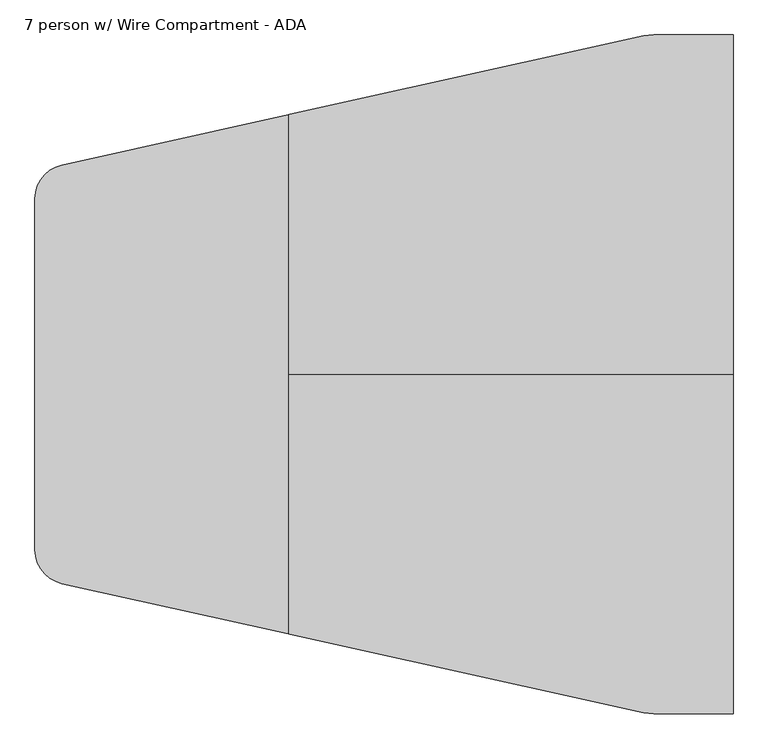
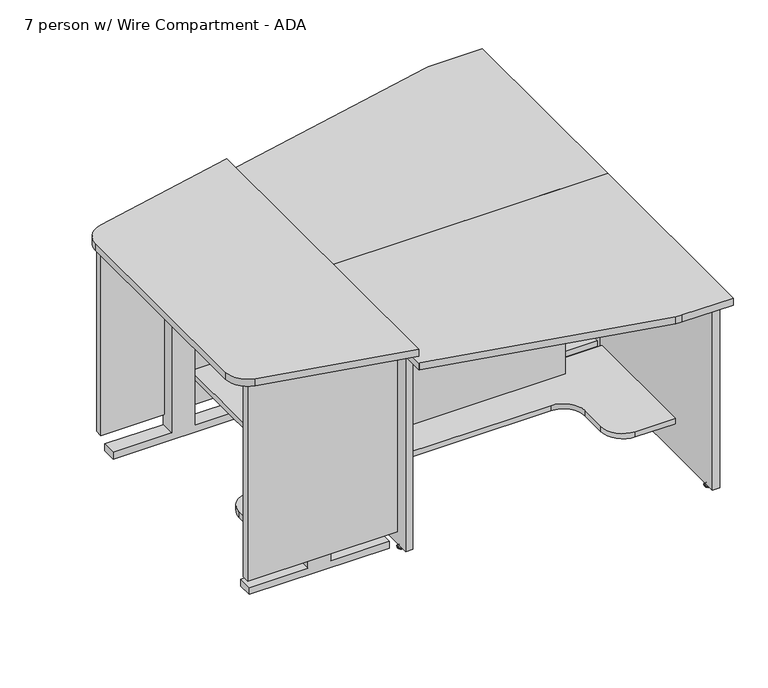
"""IFC4 building model written with IfcOpenShell, lengths in millimetres: furniture geometry, Nova Solutions - Collaboration Table - Boat_6-8 person : 7 person w/ Wire Compartment - ADA."""

from ifc_helpers import new_model, si_unit, point, frame, frame_2d, origin, place, context, project, spatial, polyline, circle_curve, ellipse_curve, trimmed, segment, composite_curve, outline, extrude, source, transform, mapped, element, save
from ifc_brep_helpers import plane_surface, cylinder_surface, revolved_surface, advanced_brep


def furniture_7_person_w_wire_compartment_ada_2b6aad6f(model_context):
    return source(origin(), model_context, "Body", "SolidModel", [
        extrude(outline(polyline([(145.5, -1880.6768948), (145.5, -1112.3768948), (507.4, -1112.3768948), (507.4, -941.3768948), (736.3, -941.3768948), (736.3, -1880.6768948), (145.5, -1880.6768948)])), frame((0.0, 69.4, 0.0), z_axis=(0.0, 1.0, 0.0), x_axis=(0.0, 0.0, 1.0)), (0.0, 0.0, 1.0), 19.2),
        extrude(outline(composite_curve([segment(polyline([(-1880.6768948, 14.1), (-1880.6768948, 210.4), (-1233.5768948, 210.4)]), True, "CONTINUOUS"), segment(trimmed(circle_curve(frame_2d((-1233.5768948, 286.6)), 76.2), [point((-1233.5768948, 210.4))], [point((-1157.3768948, 286.6))], True, "CARTESIAN"), True, "CONTINUOUS"), segment(polyline([(-1157.3768948, 286.6), (-1157.3768948, 381.0625)]), True, "CONTINUOUS"), segment(trimmed(circle_curve(frame_2d((-1081.1768948, 381.0625)), 76.2), [point((-1157.3768948, 381.0625))], [point((-1081.1768948, 457.2625))], False, "CARTESIAN"), True, "CONTINUOUS"), segment(polyline([(-1081.1768948, 457.2625), (-941.3768948, 457.2625), (-941.3768948, 14.1), (-1880.6768948, 14.1)]), True, "CONTINUOUS")], self_intersect=False)), frame((0.0, 0.0, 126.3), z_axis=(0.0, 0.0, 1.0), x_axis=(1.0, 0.0, 0.0)), (0.0, 0.0, 1.0), 19.2),
        advanced_brep(
        [(-1900.2045454, 448.9859375, 11.1125), (-1886.8492442, 448.9859375, 11.1125), (-1893.5268948, 448.9859375, 11.1125), (-1900.2045454, 448.9859375, 9.525), (-1886.8492442, 448.9859375, 9.525), (-1905.4124083, 448.9859375, 4.7748687), (-1881.6413813, 448.9859375, 4.7748687), (-1906.2735454, 448.9859375, 3.989419), (-1880.7802442, 448.9859375, 3.989419), (-1906.2735454, 448.9859375, 3.175), (-1880.7802442, 448.9859375, 3.175), (-1905.4228067, 448.9859375, 0.0), (-1881.6309828, 448.9859375, 0.0), (-1893.5268948, 448.9859375, 0.0)],
        [
            (0, 1, circle_curve(frame((-1893.5268948, 448.9859375, 11.1125), z_axis=(0.0, 0.0, 1.0), x_axis=(1.0, 0.0, 0.0)), 6.6776506)),
            (1, 2),
            (2, 0),
            (1, 0, circle_curve(frame((-1893.5268948, 448.9859375, 11.1125), z_axis=(0.0, 0.0, 1.0), x_axis=(1.0, 0.0, 0.0)), 6.6776506)),
            (3, 4, circle_curve(frame((-1893.5268948, 448.9859375, 9.525), z_axis=(0.0, 0.0, 1.0), x_axis=(1.0, 0.0, 0.0)), 6.6776506)),
            (4, 1),
            (0, 3),
            (4, 3, circle_curve(frame((-1893.5268948, 448.9859375, 9.525), z_axis=(0.0, 0.0, 1.0), x_axis=(1.0, 0.0, 0.0)), 6.6776506)),
            (5, 6, circle_curve(frame((-1893.5268948, 448.9859375, 4.7748687), z_axis=(0.0, 0.0, 1.0), x_axis=(1.0, 0.0, 0.0)), 11.8855135)),
            (6, 4, circle_curve(frame((-1880.5948321, 448.9859375, 11.1521822), z_axis=(0.0, 1.0, 0.0), x_axis=(-1.0, 0.0, 0.0)), 6.462615)),
            (3, 5, circle_curve(frame((-1906.4589575, 448.9859375, 11.1521822), z_axis=(0.0, 1.0, 0.0), x_axis=(1.0, 0.0, 0.0)), 6.462615)),
            (6, 5, circle_curve(frame((-1893.5268948, 448.9859375, 4.7748687), z_axis=(0.0, 0.0, 1.0), x_axis=(1.0, 0.0, 0.0)), 11.8855135)),
            (7, 8, circle_curve(frame((-1893.5268948, 448.9859375, 3.989419), z_axis=(0.0, 0.0, 1.0), x_axis=(1.0, 0.0, 0.0)), 12.7466506)),
            (8, 6, circle_curve(frame((-1881.8144316, 448.9859375, 3.7203591), z_axis=(0.0, -1.0, 0.0), x_axis=(-1.0, 0.0, 0.0)), 1.0686145)),
            (5, 7, circle_curve(frame((-1905.239358, 448.9859375, 3.7203591), z_axis=(0.0, -1.0, 0.0), x_axis=(1.0, 0.0, 0.0)), 1.0686145)),
            (8, 7, circle_curve(frame((-1893.5268948, 448.9859375, 3.989419), z_axis=(0.0, 0.0, 1.0), x_axis=(1.0, 0.0, 0.0)), 12.7466506)),
            (9, 10, circle_curve(frame((-1893.5268948, 448.9859375, 3.175), z_axis=(0.0, 0.0, 1.0), x_axis=(1.0, 0.0, 0.0)), 12.7466506)),
            (10, 8),
            (7, 9),
            (10, 9, circle_curve(frame((-1893.5268948, 448.9859375, 3.175), z_axis=(0.0, 0.0, 1.0), x_axis=(1.0, 0.0, 0.0)), 12.7466506)),
            (11, 12, circle_curve(frame((-1893.5268948, 448.9859375, 0.0), z_axis=(0.0, 0.0, 1.0), x_axis=(1.0, 0.0, 0.0)), 11.8959119)),
            (12, 10),
            (9, 11),
            (12, 11, circle_curve(frame((-1893.5268948, 448.9859375, 0.0), z_axis=(0.0, 0.0, 1.0), x_axis=(1.0, 0.0, 0.0)), 11.8959119)),
            (13, 12),
            (11, 13),
        ],
        [
            plane_surface(frame((-1893.5268948, 448.9859375, 11.1125), z_axis=(0.0, 0.0, 1.0), x_axis=(1.0, 0.0, 0.0))),
            cylinder_surface(frame((-1893.5268948, 448.9859375, 43.2095994), z_axis=(0.0, 0.0, -1.0), x_axis=(1.0, 0.0, 0.0)), 6.6776506),
            revolved_surface(trimmed(ellipse_curve(frame((-1880.5948321, 448.9859375, 11.1521822), z_axis=(0.0, -1.0, 0.0), x_axis=(-1.0, 0.0, 0.0)), 6.462615, 6.462615), [point((-1886.8492442, 448.9859375, 9.525))], [point((-1881.6413813, 448.9859375, 4.7748687))], True, "CARTESIAN"), (-1893.5268948, 448.9859375, 43.2095994), (0.0, 0.0, -1.0)),
            revolved_surface(trimmed(ellipse_curve(frame((-1881.8144316, 448.9859375, 3.7203591), z_axis=(0.0, 1.0, 0.0), x_axis=(-1.0, 0.0, 0.0)), 1.0686145, 1.0686145), [point((-1881.6413813, 448.9859375, 4.7748687))], [point((-1880.7802442, 448.9859375, 3.989419))], True, "CARTESIAN"), (-1893.5268948, 448.9859375, 43.2095994), (0.0, 0.0, -1.0)),
            cylinder_surface(frame((-1893.5268948, 448.9859375, 43.2095994), z_axis=(0.0, 0.0, -1.0), x_axis=(1.0, 0.0, 0.0)), 12.7466506),
            revolved_surface(polyline([(-1880.7802442, 448.9859375, 3.175), (-1881.6309828, 448.9859375, 0.0)]), (-1893.5268948, 448.9859375, 43.2095994), (0.0, 0.0, -1.0)),
            plane_surface(frame((-1893.5268948, 448.9859375, 0.0), z_axis=(0.0, 0.0, -1.0), x_axis=(1.0, 0.0, 0.0))),
        ],
        [
            (0, [[1, 2, 3]]),
            (0, [[4, -3, -2]]),
            (1, [[5, 6, -1, 7]]),
            (1, [[8, -7, -4, -6]]),
            (2, [[9, 10, -5, 11]]),
            (2, [[12, -11, -8, -10]]),
            (3, [[13, 14, -9, 15]]),
            (3, [[16, -15, -12, -14]]),
            (4, [[17, 18, -13, 19]]),
            (4, [[20, -19, -16, -18]]),
            (5, [[21, 22, -17, 23]]),
            (5, [[24, -23, -20, -22]]),
            (6, [[25, -21, 26]]),
            (6, [[-26, -24, -25]]),
        ],
    ),
        advanced_brep(
        [(-1900.2045454, 50.4140625, 11.1125), (-1886.8492442, 50.4140625, 11.1125), (-1893.5268948, 50.4140625, 11.1125), (-1900.2045454, 50.4140625, 9.525), (-1886.8492442, 50.4140625, 9.525), (-1905.4124083, 50.4140625, 4.7748687), (-1881.6413813, 50.4140625, 4.7748687), (-1906.2735454, 50.4140625, 3.989419), (-1880.7802442, 50.4140625, 3.989419), (-1906.2735454, 50.4140625, 3.175), (-1880.7802442, 50.4140625, 3.175), (-1905.4228067, 50.4140625, 0.0), (-1881.6309828, 50.4140625, 0.0), (-1893.5268948, 50.4140625, 0.0)],
        [
            (0, 1, circle_curve(frame((-1893.5268948, 50.4140625, 11.1125), z_axis=(0.0, 0.0, 1.0), x_axis=(1.0, 0.0, 0.0)), 6.6776506)),
            (1, 2),
            (2, 0),
            (1, 0, circle_curve(frame((-1893.5268948, 50.4140625, 11.1125), z_axis=(0.0, 0.0, 1.0), x_axis=(1.0, 0.0, 0.0)), 6.6776506)),
            (3, 4, circle_curve(frame((-1893.5268948, 50.4140625, 9.525), z_axis=(0.0, 0.0, 1.0), x_axis=(1.0, 0.0, 0.0)), 6.6776506)),
            (4, 1),
            (0, 3),
            (4, 3, circle_curve(frame((-1893.5268948, 50.4140625, 9.525), z_axis=(0.0, 0.0, 1.0), x_axis=(1.0, 0.0, 0.0)), 6.6776506)),
            (5, 6, circle_curve(frame((-1893.5268948, 50.4140625, 4.7748687), z_axis=(0.0, 0.0, 1.0), x_axis=(1.0, 0.0, 0.0)), 11.8855135)),
            (6, 4, circle_curve(frame((-1880.5948321, 50.4140625, 11.1521822), z_axis=(0.0, 1.0, 0.0), x_axis=(-1.0, 0.0, 0.0)), 6.462615)),
            (3, 5, circle_curve(frame((-1906.4589575, 50.4140625, 11.1521822), z_axis=(0.0, 1.0, 0.0), x_axis=(1.0, 0.0, 0.0)), 6.462615)),
            (6, 5, circle_curve(frame((-1893.5268948, 50.4140625, 4.7748687), z_axis=(0.0, 0.0, 1.0), x_axis=(1.0, 0.0, 0.0)), 11.8855135)),
            (7, 8, circle_curve(frame((-1893.5268948, 50.4140625, 3.989419), z_axis=(0.0, 0.0, 1.0), x_axis=(1.0, 0.0, 0.0)), 12.7466506)),
            (8, 6, circle_curve(frame((-1881.8144316, 50.4140625, 3.7203591), z_axis=(0.0, -1.0, 0.0), x_axis=(-1.0, 0.0, 0.0)), 1.0686145)),
            (5, 7, circle_curve(frame((-1905.239358, 50.4140625, 3.7203591), z_axis=(0.0, -1.0, 0.0), x_axis=(1.0, 0.0, 0.0)), 1.0686145)),
            (8, 7, circle_curve(frame((-1893.5268948, 50.4140625, 3.989419), z_axis=(0.0, 0.0, 1.0), x_axis=(1.0, 0.0, 0.0)), 12.7466506)),
            (9, 10, circle_curve(frame((-1893.5268948, 50.4140625, 3.175), z_axis=(0.0, 0.0, 1.0), x_axis=(1.0, 0.0, 0.0)), 12.7466506)),
            (10, 8),
            (7, 9),
            (10, 9, circle_curve(frame((-1893.5268948, 50.4140625, 3.175), z_axis=(0.0, 0.0, 1.0), x_axis=(1.0, 0.0, 0.0)), 12.7466506)),
            (11, 12, circle_curve(frame((-1893.5268948, 50.4140625, 0.0), z_axis=(0.0, 0.0, 1.0), x_axis=(1.0, 0.0, 0.0)), 11.8959119)),
            (12, 10),
            (9, 11),
            (12, 11, circle_curve(frame((-1893.5268948, 50.4140625, 0.0), z_axis=(0.0, 0.0, 1.0), x_axis=(1.0, 0.0, 0.0)), 11.8959119)),
            (13, 12),
            (11, 13),
        ],
        [
            plane_surface(frame((-1893.5268948, 50.4140625, 11.1125), z_axis=(0.0, 0.0, 1.0), x_axis=(1.0, 0.0, 0.0))),
            cylinder_surface(frame((-1893.5268948, 50.4140625, 43.2095994), z_axis=(0.0, 0.0, -1.0), x_axis=(1.0, 0.0, 0.0)), 6.6776506),
            revolved_surface(trimmed(ellipse_curve(frame((-1880.5948321, 50.4140625, 11.1521822), z_axis=(0.0, -1.0, 0.0), x_axis=(-1.0, 0.0, 0.0)), 6.462615, 6.462615), [point((-1886.8492442, 50.4140625, 9.525))], [point((-1881.6413813, 50.4140625, 4.7748687))], True, "CARTESIAN"), (-1893.5268948, 50.4140625, 43.2095994), (0.0, 0.0, -1.0)),
            revolved_surface(trimmed(ellipse_curve(frame((-1881.8144316, 50.4140625, 3.7203591), z_axis=(0.0, 1.0, 0.0), x_axis=(-1.0, 0.0, 0.0)), 1.0686145, 1.0686145), [point((-1881.6413813, 50.4140625, 4.7748687))], [point((-1880.7802442, 50.4140625, 3.989419))], True, "CARTESIAN"), (-1893.5268948, 50.4140625, 43.2095994), (0.0, 0.0, -1.0)),
            cylinder_surface(frame((-1893.5268948, 50.4140625, 43.2095994), z_axis=(0.0, 0.0, -1.0), x_axis=(1.0, 0.0, 0.0)), 12.7466506),
            revolved_surface(polyline([(-1880.7802442, 50.4140625, 3.175), (-1881.6309828, 50.4140625, 0.0)]), (-1893.5268948, 50.4140625, 43.2095994), (0.0, 0.0, -1.0)),
            plane_surface(frame((-1893.5268948, 50.4140625, 0.0), z_axis=(0.0, 0.0, -1.0), x_axis=(1.0, 0.0, 0.0))),
        ],
        [
            (0, [[1, 2, 3]]),
            (0, [[4, -3, -2]]),
            (1, [[5, 6, -1, 7]]),
            (1, [[8, -7, -4, -6]]),
            (2, [[9, 10, -5, 11]]),
            (2, [[12, -11, -8, -10]]),
            (3, [[13, 14, -9, 15]]),
            (3, [[16, -15, -12, -14]]),
            (4, [[17, 18, -13, 19]]),
            (4, [[20, -19, -16, -18]]),
            (5, [[21, 22, -17, 23]]),
            (5, [[24, -23, -20, -22]]),
            (6, [[25, -21, 26]]),
            (6, [[-26, -24, -25]]),
        ],
    ),
        extrude(outline(polyline([(-1906.3768948, 1.4), (-1906.3768948, 498.0), (-1880.6768948, 498.0), (-1880.6768948, 1.4), (-1906.3768948, 1.4)])), frame((0.0, 0.0, 15.6), z_axis=(0.0, 0.0, 1.0), x_axis=(1.0, 0.0, 0.0)), (0.0, 0.0, 1.0), 720.7),
        advanced_brep(
        [(-921.8492442, 631.3859375, 11.1125), (-928.5268948, 631.3859375, 11.1125), (-935.2045454, 631.3859375, 11.1125), (-921.8492442, 631.3859375, 9.525), (-935.2045454, 631.3859375, 9.525), (-916.6413813, 631.3859375, 4.7748687), (-940.4124083, 631.3859375, 4.7748687), (-915.7802442, 631.3859375, 3.989419), (-941.2735454, 631.3859375, 3.989419), (-915.7802442, 631.3859375, 3.175), (-941.2735454, 631.3859375, 3.175), (-916.6309828, 631.3859375, 0.0), (-940.4228067, 631.3859375, 0.0), (-928.5268948, 631.3859375, 0.0)],
        [
            (0, 1),
            (1, 2),
            (2, 0, circle_curve(frame((-928.5268948, 631.3859375, 11.1125), z_axis=(0.0, 0.0, 1.0), x_axis=(-1.0, 0.0, 0.0)), 6.6776506)),
            (0, 2, circle_curve(frame((-928.5268948, 631.3859375, 11.1125), z_axis=(0.0, 0.0, 1.0), x_axis=(-1.0, 0.0, 0.0)), 6.6776506)),
            (3, 0),
            (2, 4),
            (4, 3, circle_curve(frame((-928.5268948, 631.3859375, 9.525), z_axis=(0.0, 0.0, 1.0), x_axis=(-1.0, 0.0, 0.0)), 6.6776506)),
            (3, 4, circle_curve(frame((-928.5268948, 631.3859375, 9.525), z_axis=(0.0, 0.0, 1.0), x_axis=(-1.0, 0.0, 0.0)), 6.6776506)),
            (5, 3, circle_curve(frame((-915.5948321, 631.3859375, 11.1521822), z_axis=(0.0, 1.0, 0.0), x_axis=(-1.0, 0.0, 0.0)), 6.462615)),
            (4, 6, circle_curve(frame((-941.4589575, 631.3859375, 11.1521822), z_axis=(0.0, 1.0, 0.0), x_axis=(1.0, 0.0, 0.0)), 6.462615)),
            (6, 5, circle_curve(frame((-928.5268948, 631.3859375, 4.7748687), z_axis=(0.0, 0.0, 1.0), x_axis=(-1.0, 0.0, 0.0)), 11.8855135)),
            (5, 6, circle_curve(frame((-928.5268948, 631.3859375, 4.7748687), z_axis=(0.0, 0.0, 1.0), x_axis=(-1.0, 0.0, 0.0)), 11.8855135)),
            (7, 5, circle_curve(frame((-916.8144316, 631.3859375, 3.7203591), z_axis=(0.0, -1.0, 0.0), x_axis=(-1.0, 0.0, 0.0)), 1.0686145)),
            (6, 8, circle_curve(frame((-940.239358, 631.3859375, 3.7203591), z_axis=(0.0, -1.0, 0.0), x_axis=(1.0, 0.0, 0.0)), 1.0686145)),
            (8, 7, circle_curve(frame((-928.5268948, 631.3859375, 3.989419), z_axis=(0.0, 0.0, 1.0), x_axis=(-1.0, 0.0, 0.0)), 12.7466506)),
            (7, 8, circle_curve(frame((-928.5268948, 631.3859375, 3.989419), z_axis=(0.0, 0.0, 1.0), x_axis=(-1.0, 0.0, 0.0)), 12.7466506)),
            (9, 7),
            (8, 10),
            (10, 9, circle_curve(frame((-928.5268948, 631.3859375, 3.175), z_axis=(0.0, 0.0, 1.0), x_axis=(-1.0, 0.0, 0.0)), 12.7466506)),
            (9, 10, circle_curve(frame((-928.5268948, 631.3859375, 3.175), z_axis=(0.0, 0.0, 1.0), x_axis=(-1.0, 0.0, 0.0)), 12.7466506)),
            (11, 9),
            (10, 12),
            (12, 11, circle_curve(frame((-928.5268948, 631.3859375, 0.0), z_axis=(0.0, 0.0, 1.0), x_axis=(-1.0, 0.0, 0.0)), 11.8959119)),
            (11, 12, circle_curve(frame((-928.5268948, 631.3859375, 0.0), z_axis=(0.0, 0.0, 1.0), x_axis=(-1.0, 0.0, 0.0)), 11.8959119)),
            (13, 11),
            (12, 13),
        ],
        [
            plane_surface(frame((-928.5268948, 631.3859375, 11.1125), z_axis=(0.0, 0.0, 1.0), x_axis=(-1.0, 0.0, 0.0))),
            cylinder_surface(frame((-928.5268948, 631.3859375, 43.2095994), z_axis=(0.0, 0.0, -1.0), x_axis=(-1.0, 0.0, 0.0)), 6.6776506),
            revolved_surface(trimmed(ellipse_curve(frame((-941.4589575, 631.3859375, 11.1521822), z_axis=(0.0, 1.0, 0.0), x_axis=(1.0, 0.0, 0.0)), 6.462615, 6.462615), [point((-935.2045454, 631.3859375, 9.525))], [point((-940.4124083, 631.3859375, 4.7748687))], True, "CARTESIAN"), (-928.5268948, 631.3859375, 43.2095994), (0.0, 0.0, -1.0)),
            revolved_surface(trimmed(ellipse_curve(frame((-940.239358, 631.3859375, 3.7203591), z_axis=(0.0, -1.0, 0.0), x_axis=(1.0, 0.0, 0.0)), 1.0686145, 1.0686145), [point((-940.4124083, 631.3859375, 4.7748687))], [point((-941.2735454, 631.3859375, 3.989419))], True, "CARTESIAN"), (-928.5268948, 631.3859375, 43.2095994), (0.0, 0.0, -1.0)),
            cylinder_surface(frame((-928.5268948, 631.3859375, 43.2095994), z_axis=(0.0, 0.0, -1.0), x_axis=(-1.0, 0.0, 0.0)), 12.7466506),
            revolved_surface(polyline([(-941.2735454, 631.3859375, 3.175), (-940.4228067, 631.3859375, 0.0)]), (-928.5268948, 631.3859375, 43.2095994), (0.0, 0.0, -1.0)),
            plane_surface(frame((-928.5268948, 631.3859375, 0.0), z_axis=(0.0, 0.0, -1.0), x_axis=(-1.0, 0.0, 0.0))),
        ],
        [
            (0, [[1, 2, 3]]),
            (0, [[-2, -1, 4]]),
            (1, [[5, -3, 6, 7]]),
            (1, [[-6, -4, -5, 8]]),
            (2, [[9, -7, 10, 11]]),
            (2, [[-10, -8, -9, 12]]),
            (3, [[13, -11, 14, 15]]),
            (3, [[-14, -12, -13, 16]]),
            (4, [[17, -15, 18, 19]]),
            (4, [[-18, -16, -17, 20]]),
            (5, [[21, -19, 22, 23]]),
            (5, [[-22, -20, -21, 24]]),
            (6, [[25, -23, 26]]),
            (6, [[-26, -24, -25]]),
        ],
    ),
        advanced_brep(
        [(-921.8492442, 50.4140625, 11.1125), (-928.5268948, 50.4140625, 11.1125), (-935.2045454, 50.4140625, 11.1125), (-921.8492442, 50.4140625, 9.525), (-935.2045454, 50.4140625, 9.525), (-916.6413813, 50.4140625, 4.7748687), (-940.4124083, 50.4140625, 4.7748687), (-915.7802442, 50.4140625, 3.989419), (-941.2735454, 50.4140625, 3.989419), (-915.7802442, 50.4140625, 3.175), (-941.2735454, 50.4140625, 3.175), (-916.6309828, 50.4140625, 0.0), (-940.4228067, 50.4140625, 0.0), (-928.5268948, 50.4140625, 0.0)],
        [
            (0, 1),
            (1, 2),
            (2, 0, circle_curve(frame((-928.5268948, 50.4140625, 11.1125), z_axis=(0.0, 0.0, 1.0), x_axis=(-1.0, 0.0, 0.0)), 6.6776506)),
            (0, 2, circle_curve(frame((-928.5268948, 50.4140625, 11.1125), z_axis=(0.0, 0.0, 1.0), x_axis=(-1.0, 0.0, 0.0)), 6.6776506)),
            (3, 0),
            (2, 4),
            (4, 3, circle_curve(frame((-928.5268948, 50.4140625, 9.525), z_axis=(0.0, 0.0, 1.0), x_axis=(-1.0, 0.0, 0.0)), 6.6776506)),
            (3, 4, circle_curve(frame((-928.5268948, 50.4140625, 9.525), z_axis=(0.0, 0.0, 1.0), x_axis=(-1.0, 0.0, 0.0)), 6.6776506)),
            (5, 3, circle_curve(frame((-915.5948321, 50.4140625, 11.1521822), z_axis=(0.0, 1.0, 0.0), x_axis=(-1.0, 0.0, 0.0)), 6.462615)),
            (4, 6, circle_curve(frame((-941.4589575, 50.4140625, 11.1521822), z_axis=(0.0, 1.0, 0.0), x_axis=(1.0, 0.0, 0.0)), 6.462615)),
            (6, 5, circle_curve(frame((-928.5268948, 50.4140625, 4.7748687), z_axis=(0.0, 0.0, 1.0), x_axis=(-1.0, 0.0, 0.0)), 11.8855135)),
            (5, 6, circle_curve(frame((-928.5268948, 50.4140625, 4.7748687), z_axis=(0.0, 0.0, 1.0), x_axis=(-1.0, 0.0, 0.0)), 11.8855135)),
            (7, 5, circle_curve(frame((-916.8144316, 50.4140625, 3.7203591), z_axis=(0.0, -1.0, 0.0), x_axis=(-1.0, 0.0, 0.0)), 1.0686145)),
            (6, 8, circle_curve(frame((-940.239358, 50.4140625, 3.7203591), z_axis=(0.0, -1.0, 0.0), x_axis=(1.0, 0.0, 0.0)), 1.0686145)),
            (8, 7, circle_curve(frame((-928.5268948, 50.4140625, 3.989419), z_axis=(0.0, 0.0, 1.0), x_axis=(-1.0, 0.0, 0.0)), 12.7466506)),
            (7, 8, circle_curve(frame((-928.5268948, 50.4140625, 3.989419), z_axis=(0.0, 0.0, 1.0), x_axis=(-1.0, 0.0, 0.0)), 12.7466506)),
            (9, 7),
            (8, 10),
            (10, 9, circle_curve(frame((-928.5268948, 50.4140625, 3.175), z_axis=(0.0, 0.0, 1.0), x_axis=(-1.0, 0.0, 0.0)), 12.7466506)),
            (9, 10, circle_curve(frame((-928.5268948, 50.4140625, 3.175), z_axis=(0.0, 0.0, 1.0), x_axis=(-1.0, 0.0, 0.0)), 12.7466506)),
            (11, 9),
            (10, 12),
            (12, 11, circle_curve(frame((-928.5268948, 50.4140625, 0.0), z_axis=(0.0, 0.0, 1.0), x_axis=(-1.0, 0.0, 0.0)), 11.8959119)),
            (11, 12, circle_curve(frame((-928.5268948, 50.4140625, 0.0), z_axis=(0.0, 0.0, 1.0), x_axis=(-1.0, 0.0, 0.0)), 11.8959119)),
            (13, 11),
            (12, 13),
        ],
        [
            plane_surface(frame((-928.5268948, 50.4140625, 11.1125), z_axis=(0.0, 0.0, 1.0), x_axis=(-1.0, 0.0, 0.0))),
            cylinder_surface(frame((-928.5268948, 50.4140625, 43.2095994), z_axis=(0.0, 0.0, -1.0), x_axis=(-1.0, 0.0, 0.0)), 6.6776506),
            revolved_surface(trimmed(ellipse_curve(frame((-941.4589575, 50.4140625, 11.1521822), z_axis=(0.0, 1.0, 0.0), x_axis=(1.0, 0.0, 0.0)), 6.462615, 6.462615), [point((-935.2045454, 50.4140625, 9.525))], [point((-940.4124083, 50.4140625, 4.7748687))], True, "CARTESIAN"), (-928.5268948, 50.4140625, 43.2095994), (0.0, 0.0, -1.0)),
            revolved_surface(trimmed(ellipse_curve(frame((-940.239358, 50.4140625, 3.7203591), z_axis=(0.0, -1.0, 0.0), x_axis=(1.0, 0.0, 0.0)), 1.0686145, 1.0686145), [point((-940.4124083, 50.4140625, 4.7748687))], [point((-941.2735454, 50.4140625, 3.989419))], True, "CARTESIAN"), (-928.5268948, 50.4140625, 43.2095994), (0.0, 0.0, -1.0)),
            cylinder_surface(frame((-928.5268948, 50.4140625, 43.2095994), z_axis=(0.0, 0.0, -1.0), x_axis=(-1.0, 0.0, 0.0)), 12.7466506),
            revolved_surface(polyline([(-941.2735454, 50.4140625, 3.175), (-940.4228067, 50.4140625, 0.0)]), (-928.5268948, 50.4140625, 43.2095994), (0.0, 0.0, -1.0)),
            plane_surface(frame((-928.5268948, 50.4140625, 0.0), z_axis=(0.0, 0.0, -1.0), x_axis=(-1.0, 0.0, 0.0))),
        ],
        [
            (0, [[1, 2, 3]]),
            (0, [[-2, -1, 4]]),
            (1, [[5, -3, 6, 7]]),
            (1, [[-6, -4, -5, 8]]),
            (2, [[9, -7, 10, 11]]),
            (2, [[-10, -8, -9, 12]]),
            (3, [[13, -11, 14, 15]]),
            (3, [[-14, -12, -13, 16]]),
            (4, [[17, -15, 18, 19]]),
            (4, [[-18, -16, -17, 20]]),
            (5, [[21, -19, 22, 23]]),
            (5, [[-22, -20, -21, 24]]),
            (6, [[25, -23, 26]]),
            (6, [[-26, -24, -25]]),
        ],
    ),
        extrude(outline(polyline([(-915.6768948, 1.4), (-941.3768948, 1.4), (-941.3768948, 680.4), (-915.6768948, 680.4), (-915.6768948, 1.4)])), frame((0.0, 0.0, 15.6), z_axis=(0.0, 0.0, 1.0), x_axis=(1.0, 0.0, 0.0)), (0.0, 0.0, 1.0), 720.7),
        extrude(outline(composite_curve([segment(polyline([(-1091.4972388, 758.0), (-914.2768948, 758.0), (-914.2768948, 0.0), (-1907.7768948, 0.0), (-1907.7768948, 579.4403794)]), True, "CONTINUOUS"), segment(trimmed(circle_curve(frame_2d((-1882.3878948, 481.0637628)), 101.6), [point((-1907.7768948, 579.4403794))], [point((-1904.3781596, 580.2554372))], False, "CARTESIAN"), True, "CONTINUOUS"), segment(polyline([(-1904.3781596, 580.2554372), (-1113.4875036, 755.5916743)]), True, "CONTINUOUS"), segment(trimmed(circle_curve(frame_2d((-1091.4972388, 656.4)), 101.6), [point((-1113.4875036, 755.5916743))], [point((-1091.4972388, 758.0))], False, "CARTESIAN"), True, "CONTINUOUS")], self_intersect=False)), frame((0.0, 0.0, 736.3), z_axis=(0.0, 0.0, 1.0), x_axis=(1.0, 0.0, 0.0)), (0.0, 0.0, 1.0), 25.7),
        extrude(outline(polyline([(736.3, -1880.6768948), (145.5, -1880.6768948), (145.5, -1112.3768948), (507.4, -1112.3768948), (507.4, -941.3768948), (736.3, -941.3768948), (736.3, -1880.6768948)])), frame((0.0, -88.6, 0.0), z_axis=(0.0, 1.0, 0.0), x_axis=(0.0, 0.0, 1.0)), (0.0, 0.0, 1.0), 19.2),
        extrude(outline(composite_curve([segment(polyline([(-1880.6768948, -14.1), (-941.3768948, -14.1), (-941.3768948, -457.2625), (-1081.1768948, -457.2625)]), True, "CONTINUOUS"), segment(trimmed(circle_curve(frame_2d((-1081.1768948, -381.0625)), 76.2), [point((-1081.1768948, -457.2625))], [point((-1157.3768948, -381.0625))], False, "CARTESIAN"), True, "CONTINUOUS"), segment(polyline([(-1157.3768948, -381.0625), (-1157.3768948, -286.6)]), True, "CONTINUOUS"), segment(trimmed(circle_curve(frame_2d((-1233.5768948, -286.6)), 76.2), [point((-1157.3768948, -286.6))], [point((-1233.5768948, -210.4))], True, "CARTESIAN"), True, "CONTINUOUS"), segment(polyline([(-1233.5768948, -210.4), (-1880.6768948, -210.4), (-1880.6768948, -14.1)]), True, "CONTINUOUS")], self_intersect=False)), frame((0.0, 0.0, 126.3), z_axis=(0.0, 0.0, 1.0), x_axis=(1.0, 0.0, 0.0)), (0.0, 0.0, 1.0), 19.2),
        advanced_brep(
        [(-1900.2045454, -448.9859375, 11.1125), (-1893.5268948, -448.9859375, 11.1125), (-1886.8492442, -448.9859375, 11.1125), (-1900.2045454, -448.9859375, 9.525), (-1886.8492442, -448.9859375, 9.525), (-1905.4124083, -448.9859375, 4.7748687), (-1881.6413813, -448.9859375, 4.7748687), (-1906.2735454, -448.9859375, 3.989419), (-1880.7802442, -448.9859375, 3.989419), (-1906.2735454, -448.9859375, 3.175), (-1880.7802442, -448.9859375, 3.175), (-1905.4228067, -448.9859375, 0.0), (-1881.6309828, -448.9859375, 0.0), (-1893.5268948, -448.9859375, 0.0)],
        [
            (0, 1),
            (1, 2),
            (2, 0, circle_curve(frame((-1893.5268948, -448.9859375, 11.1125), z_axis=(0.0, 0.0, 1.0), x_axis=(1.0, 0.0, 0.0)), 6.6776506)),
            (0, 2, circle_curve(frame((-1893.5268948, -448.9859375, 11.1125), z_axis=(0.0, 0.0, 1.0), x_axis=(1.0, 0.0, 0.0)), 6.6776506)),
            (3, 0),
            (2, 4),
            (4, 3, circle_curve(frame((-1893.5268948, -448.9859375, 9.525), z_axis=(0.0, 0.0, 1.0), x_axis=(1.0, 0.0, 0.0)), 6.6776506)),
            (3, 4, circle_curve(frame((-1893.5268948, -448.9859375, 9.525), z_axis=(0.0, 0.0, 1.0), x_axis=(1.0, 0.0, 0.0)), 6.6776506)),
            (5, 3, circle_curve(frame((-1906.4589575, -448.9859375, 11.1521822), z_axis=(0.0, -1.0, 0.0), x_axis=(1.0, 0.0, 0.0)), 6.462615)),
            (4, 6, circle_curve(frame((-1880.5948321, -448.9859375, 11.1521822), z_axis=(0.0, -1.0, 0.0), x_axis=(-1.0, 0.0, 0.0)), 6.462615)),
            (6, 5, circle_curve(frame((-1893.5268948, -448.9859375, 4.7748687), z_axis=(0.0, 0.0, 1.0), x_axis=(1.0, 0.0, 0.0)), 11.8855135)),
            (5, 6, circle_curve(frame((-1893.5268948, -448.9859375, 4.7748687), z_axis=(0.0, 0.0, 1.0), x_axis=(1.0, 0.0, 0.0)), 11.8855135)),
            (7, 5, circle_curve(frame((-1905.239358, -448.9859375, 3.7203591), z_axis=(0.0, 1.0, 0.0), x_axis=(1.0, 0.0, 0.0)), 1.0686145)),
            (6, 8, circle_curve(frame((-1881.8144316, -448.9859375, 3.7203591), z_axis=(0.0, 1.0, 0.0), x_axis=(-1.0, 0.0, 0.0)), 1.0686145)),
            (8, 7, circle_curve(frame((-1893.5268948, -448.9859375, 3.989419), z_axis=(0.0, 0.0, 1.0), x_axis=(1.0, 0.0, 0.0)), 12.7466506)),
            (7, 8, circle_curve(frame((-1893.5268948, -448.9859375, 3.989419), z_axis=(0.0, 0.0, 1.0), x_axis=(1.0, 0.0, 0.0)), 12.7466506)),
            (9, 7),
            (8, 10),
            (10, 9, circle_curve(frame((-1893.5268948, -448.9859375, 3.175), z_axis=(0.0, 0.0, 1.0), x_axis=(1.0, 0.0, 0.0)), 12.7466506)),
            (9, 10, circle_curve(frame((-1893.5268948, -448.9859375, 3.175), z_axis=(0.0, 0.0, 1.0), x_axis=(1.0, 0.0, 0.0)), 12.7466506)),
            (11, 9),
            (10, 12),
            (12, 11, circle_curve(frame((-1893.5268948, -448.9859375, 0.0), z_axis=(0.0, 0.0, 1.0), x_axis=(1.0, 0.0, 0.0)), 11.8959119)),
            (11, 12, circle_curve(frame((-1893.5268948, -448.9859375, 0.0), z_axis=(0.0, 0.0, 1.0), x_axis=(1.0, 0.0, 0.0)), 11.8959119)),
            (13, 11),
            (12, 13),
        ],
        [
            plane_surface(frame((-1893.5268948, -448.9859375, 11.1125), z_axis=(0.0, 0.0, 1.0), x_axis=(1.0, 0.0, 0.0))),
            cylinder_surface(frame((-1893.5268948, -448.9859375, 43.2095994), z_axis=(0.0, 0.0, -1.0), x_axis=(1.0, 0.0, 0.0)), 6.6776506),
            revolved_surface(trimmed(ellipse_curve(frame((-1880.5948321, -448.9859375, 11.1521822), z_axis=(0.0, -1.0, 0.0), x_axis=(-1.0, 0.0, 0.0)), 6.462615, 6.462615), [point((-1886.8492442, -448.9859375, 9.525))], [point((-1881.6413813, -448.9859375, 4.7748687))], True, "CARTESIAN"), (-1893.5268948, -448.9859375, 43.2095994), (0.0, 0.0, -1.0)),
            revolved_surface(trimmed(ellipse_curve(frame((-1881.8144316, -448.9859375, 3.7203591), z_axis=(0.0, 1.0, 0.0), x_axis=(-1.0, 0.0, 0.0)), 1.0686145, 1.0686145), [point((-1881.6413813, -448.9859375, 4.7748687))], [point((-1880.7802442, -448.9859375, 3.989419))], True, "CARTESIAN"), (-1893.5268948, -448.9859375, 43.2095994), (0.0, 0.0, -1.0)),
            cylinder_surface(frame((-1893.5268948, -448.9859375, 43.2095994), z_axis=(0.0, 0.0, -1.0), x_axis=(1.0, 0.0, 0.0)), 12.7466506),
            revolved_surface(polyline([(-1880.7802442, -448.9859375, 3.175), (-1881.6309828, -448.9859375, 0.0)]), (-1893.5268948, -448.9859375, 43.2095994), (0.0, 0.0, -1.0)),
            plane_surface(frame((-1893.5268948, -448.9859375, 0.0), z_axis=(0.0, 0.0, -1.0), x_axis=(1.0, 0.0, 0.0))),
        ],
        [
            (0, [[1, 2, 3]]),
            (0, [[-2, -1, 4]]),
            (1, [[5, -3, 6, 7]]),
            (1, [[-6, -4, -5, 8]]),
            (2, [[9, -7, 10, 11]]),
            (2, [[-10, -8, -9, 12]]),
            (3, [[13, -11, 14, 15]]),
            (3, [[-14, -12, -13, 16]]),
            (4, [[17, -15, 18, 19]]),
            (4, [[-18, -16, -17, 20]]),
            (5, [[21, -19, 22, 23]]),
            (5, [[-22, -20, -21, 24]]),
            (6, [[25, -23, 26]]),
            (6, [[-26, -24, -25]]),
        ],
    ),
        advanced_brep(
        [(-1900.2045454, -50.4140625, 11.1125), (-1893.5268948, -50.4140625, 11.1125), (-1886.8492442, -50.4140625, 11.1125), (-1900.2045454, -50.4140625, 9.525), (-1886.8492442, -50.4140625, 9.525), (-1905.4124083, -50.4140625, 4.7748687), (-1881.6413813, -50.4140625, 4.7748687), (-1906.2735454, -50.4140625, 3.989419), (-1880.7802442, -50.4140625, 3.989419), (-1906.2735454, -50.4140625, 3.175), (-1880.7802442, -50.4140625, 3.175), (-1905.4228067, -50.4140625, 0.0), (-1881.6309828, -50.4140625, 0.0), (-1893.5268948, -50.4140625, 0.0)],
        [
            (0, 1),
            (1, 2),
            (2, 0, circle_curve(frame((-1893.5268948, -50.4140625, 11.1125), z_axis=(0.0, 0.0, 1.0), x_axis=(1.0, 0.0, 0.0)), 6.6776506)),
            (0, 2, circle_curve(frame((-1893.5268948, -50.4140625, 11.1125), z_axis=(0.0, 0.0, 1.0), x_axis=(1.0, 0.0, 0.0)), 6.6776506)),
            (3, 0),
            (2, 4),
            (4, 3, circle_curve(frame((-1893.5268948, -50.4140625, 9.525), z_axis=(0.0, 0.0, 1.0), x_axis=(1.0, 0.0, 0.0)), 6.6776506)),
            (3, 4, circle_curve(frame((-1893.5268948, -50.4140625, 9.525), z_axis=(0.0, 0.0, 1.0), x_axis=(1.0, 0.0, 0.0)), 6.6776506)),
            (5, 3, circle_curve(frame((-1906.4589575, -50.4140625, 11.1521822), z_axis=(0.0, -1.0, 0.0), x_axis=(1.0, 0.0, 0.0)), 6.462615)),
            (4, 6, circle_curve(frame((-1880.5948321, -50.4140625, 11.1521822), z_axis=(0.0, -1.0, 0.0), x_axis=(-1.0, 0.0, 0.0)), 6.462615)),
            (6, 5, circle_curve(frame((-1893.5268948, -50.4140625, 4.7748687), z_axis=(0.0, 0.0, 1.0), x_axis=(1.0, 0.0, 0.0)), 11.8855135)),
            (5, 6, circle_curve(frame((-1893.5268948, -50.4140625, 4.7748687), z_axis=(0.0, 0.0, 1.0), x_axis=(1.0, 0.0, 0.0)), 11.8855135)),
            (7, 5, circle_curve(frame((-1905.239358, -50.4140625, 3.7203591), z_axis=(0.0, 1.0, 0.0), x_axis=(1.0, 0.0, 0.0)), 1.0686145)),
            (6, 8, circle_curve(frame((-1881.8144316, -50.4140625, 3.7203591), z_axis=(0.0, 1.0, 0.0), x_axis=(-1.0, 0.0, 0.0)), 1.0686145)),
            (8, 7, circle_curve(frame((-1893.5268948, -50.4140625, 3.989419), z_axis=(0.0, 0.0, 1.0), x_axis=(1.0, 0.0, 0.0)), 12.7466506)),
            (7, 8, circle_curve(frame((-1893.5268948, -50.4140625, 3.989419), z_axis=(0.0, 0.0, 1.0), x_axis=(1.0, 0.0, 0.0)), 12.7466506)),
            (9, 7),
            (8, 10),
            (10, 9, circle_curve(frame((-1893.5268948, -50.4140625, 3.175), z_axis=(0.0, 0.0, 1.0), x_axis=(1.0, 0.0, 0.0)), 12.7466506)),
            (9, 10, circle_curve(frame((-1893.5268948, -50.4140625, 3.175), z_axis=(0.0, 0.0, 1.0), x_axis=(1.0, 0.0, 0.0)), 12.7466506)),
            (11, 9),
            (10, 12),
            (12, 11, circle_curve(frame((-1893.5268948, -50.4140625, 0.0), z_axis=(0.0, 0.0, 1.0), x_axis=(1.0, 0.0, 0.0)), 11.8959119)),
            (11, 12, circle_curve(frame((-1893.5268948, -50.4140625, 0.0), z_axis=(0.0, 0.0, 1.0), x_axis=(1.0, 0.0, 0.0)), 11.8959119)),
            (13, 11),
            (12, 13),
        ],
        [
            plane_surface(frame((-1893.5268948, -50.4140625, 11.1125), z_axis=(0.0, 0.0, 1.0), x_axis=(1.0, 0.0, 0.0))),
            cylinder_surface(frame((-1893.5268948, -50.4140625, 43.2095994), z_axis=(0.0, 0.0, -1.0), x_axis=(1.0, 0.0, 0.0)), 6.6776506),
            revolved_surface(trimmed(ellipse_curve(frame((-1880.5948321, -50.4140625, 11.1521822), z_axis=(0.0, -1.0, 0.0), x_axis=(-1.0, 0.0, 0.0)), 6.462615, 6.462615), [point((-1886.8492442, -50.4140625, 9.525))], [point((-1881.6413813, -50.4140625, 4.7748687))], True, "CARTESIAN"), (-1893.5268948, -50.4140625, 43.2095994), (0.0, 0.0, -1.0)),
            revolved_surface(trimmed(ellipse_curve(frame((-1881.8144316, -50.4140625, 3.7203591), z_axis=(0.0, 1.0, 0.0), x_axis=(-1.0, 0.0, 0.0)), 1.0686145, 1.0686145), [point((-1881.6413813, -50.4140625, 4.7748687))], [point((-1880.7802442, -50.4140625, 3.989419))], True, "CARTESIAN"), (-1893.5268948, -50.4140625, 43.2095994), (0.0, 0.0, -1.0)),
            cylinder_surface(frame((-1893.5268948, -50.4140625, 43.2095994), z_axis=(0.0, 0.0, -1.0), x_axis=(1.0, 0.0, 0.0)), 12.7466506),
            revolved_surface(polyline([(-1880.7802442, -50.4140625, 3.175), (-1881.6309828, -50.4140625, 0.0)]), (-1893.5268948, -50.4140625, 43.2095994), (0.0, 0.0, -1.0)),
            plane_surface(frame((-1893.5268948, -50.4140625, 0.0), z_axis=(0.0, 0.0, -1.0), x_axis=(1.0, 0.0, 0.0))),
        ],
        [
            (0, [[1, 2, 3]]),
            (0, [[-2, -1, 4]]),
            (1, [[5, -3, 6, 7]]),
            (1, [[-6, -4, -5, 8]]),
            (2, [[9, -7, 10, 11]]),
            (2, [[-10, -8, -9, 12]]),
            (3, [[13, -11, 14, 15]]),
            (3, [[-14, -12, -13, 16]]),
            (4, [[17, -15, 18, 19]]),
            (4, [[-18, -16, -17, 20]]),
            (5, [[21, -19, 22, 23]]),
            (5, [[-22, -20, -21, 24]]),
            (6, [[25, -23, 26]]),
            (6, [[-26, -24, -25]]),
        ],
    ),
        extrude(outline(polyline([(-1906.3768948, -1.4), (-1880.6768948, -1.4), (-1880.6768948, -498.0), (-1906.3768948, -498.0), (-1906.3768948, -1.4)])), frame((0.0, 0.0, 15.6), z_axis=(0.0, 0.0, 1.0), x_axis=(1.0, 0.0, 0.0)), (0.0, 0.0, 1.0), 720.7),
        advanced_brep(
        [(-921.8492442, -631.3859375, 11.1125), (-935.2045454, -631.3859375, 11.1125), (-928.5268948, -631.3859375, 11.1125), (-921.8492442, -631.3859375, 9.525), (-935.2045454, -631.3859375, 9.525), (-916.6413813, -631.3859375, 4.7748687), (-940.4124083, -631.3859375, 4.7748687), (-915.7802442, -631.3859375, 3.989419), (-941.2735454, -631.3859375, 3.989419), (-915.7802442, -631.3859375, 3.175), (-941.2735454, -631.3859375, 3.175), (-916.6309828, -631.3859375, 0.0), (-940.4228067, -631.3859375, 0.0), (-928.5268948, -631.3859375, 0.0)],
        [
            (0, 1, circle_curve(frame((-928.5268948, -631.3859375, 11.1125), z_axis=(0.0, 0.0, 1.0), x_axis=(-1.0, 0.0, 0.0)), 6.6776506)),
            (1, 2),
            (2, 0),
            (1, 0, circle_curve(frame((-928.5268948, -631.3859375, 11.1125), z_axis=(0.0, 0.0, 1.0), x_axis=(-1.0, 0.0, 0.0)), 6.6776506)),
            (3, 4, circle_curve(frame((-928.5268948, -631.3859375, 9.525), z_axis=(0.0, 0.0, 1.0), x_axis=(-1.0, 0.0, 0.0)), 6.6776506)),
            (4, 1),
            (0, 3),
            (4, 3, circle_curve(frame((-928.5268948, -631.3859375, 9.525), z_axis=(0.0, 0.0, 1.0), x_axis=(-1.0, 0.0, 0.0)), 6.6776506)),
            (5, 6, circle_curve(frame((-928.5268948, -631.3859375, 4.7748687), z_axis=(0.0, 0.0, 1.0), x_axis=(-1.0, 0.0, 0.0)), 11.8855135)),
            (6, 4, circle_curve(frame((-941.4589575, -631.3859375, 11.1521822), z_axis=(0.0, -1.0, 0.0), x_axis=(1.0, 0.0, 0.0)), 6.462615)),
            (3, 5, circle_curve(frame((-915.5948321, -631.3859375, 11.1521822), z_axis=(0.0, -1.0, 0.0), x_axis=(-1.0, 0.0, 0.0)), 6.462615)),
            (6, 5, circle_curve(frame((-928.5268948, -631.3859375, 4.7748687), z_axis=(0.0, 0.0, 1.0), x_axis=(-1.0, 0.0, 0.0)), 11.8855135)),
            (7, 8, circle_curve(frame((-928.5268948, -631.3859375, 3.989419), z_axis=(0.0, 0.0, 1.0), x_axis=(-1.0, 0.0, 0.0)), 12.7466506)),
            (8, 6, circle_curve(frame((-940.239358, -631.3859375, 3.7203591), z_axis=(0.0, 1.0, 0.0), x_axis=(1.0, 0.0, 0.0)), 1.0686145)),
            (5, 7, circle_curve(frame((-916.8144316, -631.3859375, 3.7203591), z_axis=(0.0, 1.0, 0.0), x_axis=(-1.0, 0.0, 0.0)), 1.0686145)),
            (8, 7, circle_curve(frame((-928.5268948, -631.3859375, 3.989419), z_axis=(0.0, 0.0, 1.0), x_axis=(-1.0, 0.0, 0.0)), 12.7466506)),
            (9, 10, circle_curve(frame((-928.5268948, -631.3859375, 3.175), z_axis=(0.0, 0.0, 1.0), x_axis=(-1.0, 0.0, 0.0)), 12.7466506)),
            (10, 8),
            (7, 9),
            (10, 9, circle_curve(frame((-928.5268948, -631.3859375, 3.175), z_axis=(0.0, 0.0, 1.0), x_axis=(-1.0, 0.0, 0.0)), 12.7466506)),
            (11, 12, circle_curve(frame((-928.5268948, -631.3859375, 0.0), z_axis=(0.0, 0.0, 1.0), x_axis=(-1.0, 0.0, 0.0)), 11.8959119)),
            (12, 10),
            (9, 11),
            (12, 11, circle_curve(frame((-928.5268948, -631.3859375, 0.0), z_axis=(0.0, 0.0, 1.0), x_axis=(-1.0, 0.0, 0.0)), 11.8959119)),
            (13, 12),
            (11, 13),
        ],
        [
            plane_surface(frame((-928.5268948, -631.3859375, 11.1125), z_axis=(0.0, 0.0, 1.0), x_axis=(-1.0, 0.0, 0.0))),
            cylinder_surface(frame((-928.5268948, -631.3859375, 43.2095994), z_axis=(0.0, 0.0, -1.0), x_axis=(-1.0, 0.0, 0.0)), 6.6776506),
            revolved_surface(trimmed(ellipse_curve(frame((-941.4589575, -631.3859375, 11.1521822), z_axis=(0.0, 1.0, 0.0), x_axis=(1.0, 0.0, 0.0)), 6.462615, 6.462615), [point((-935.2045454, -631.3859375, 9.525))], [point((-940.4124083, -631.3859375, 4.7748687))], True, "CARTESIAN"), (-928.5268948, -631.3859375, 43.2095994), (0.0, 0.0, -1.0)),
            revolved_surface(trimmed(ellipse_curve(frame((-940.239358, -631.3859375, 3.7203591), z_axis=(0.0, -1.0, 0.0), x_axis=(1.0, 0.0, 0.0)), 1.0686145, 1.0686145), [point((-940.4124083, -631.3859375, 4.7748687))], [point((-941.2735454, -631.3859375, 3.989419))], True, "CARTESIAN"), (-928.5268948, -631.3859375, 43.2095994), (0.0, 0.0, -1.0)),
            cylinder_surface(frame((-928.5268948, -631.3859375, 43.2095994), z_axis=(0.0, 0.0, -1.0), x_axis=(-1.0, 0.0, 0.0)), 12.7466506),
            revolved_surface(polyline([(-941.2735454, -631.3859375, 3.175), (-940.4228067, -631.3859375, 0.0)]), (-928.5268948, -631.3859375, 43.2095994), (0.0, 0.0, -1.0)),
            plane_surface(frame((-928.5268948, -631.3859375, 0.0), z_axis=(0.0, 0.0, -1.0), x_axis=(-1.0, 0.0, 0.0))),
        ],
        [
            (0, [[1, 2, 3]]),
            (0, [[4, -3, -2]]),
            (1, [[5, 6, -1, 7]]),
            (1, [[8, -7, -4, -6]]),
            (2, [[9, 10, -5, 11]]),
            (2, [[12, -11, -8, -10]]),
            (3, [[13, 14, -9, 15]]),
            (3, [[16, -15, -12, -14]]),
            (4, [[17, 18, -13, 19]]),
            (4, [[20, -19, -16, -18]]),
            (5, [[21, 22, -17, 23]]),
            (5, [[24, -23, -20, -22]]),
            (6, [[25, -21, 26]]),
            (6, [[-26, -24, -25]]),
        ],
    ),
        advanced_brep(
        [(-921.8492442, -50.4140625, 11.1125), (-935.2045454, -50.4140625, 11.1125), (-928.5268948, -50.4140625, 11.1125), (-921.8492442, -50.4140625, 9.525), (-935.2045454, -50.4140625, 9.525), (-916.6413813, -50.4140625, 4.7748687), (-940.4124083, -50.4140625, 4.7748687), (-915.7802442, -50.4140625, 3.989419), (-941.2735454, -50.4140625, 3.989419), (-915.7802442, -50.4140625, 3.175), (-941.2735454, -50.4140625, 3.175), (-916.6309828, -50.4140625, 0.0), (-940.4228067, -50.4140625, 0.0), (-928.5268948, -50.4140625, 0.0)],
        [
            (0, 1, circle_curve(frame((-928.5268948, -50.4140625, 11.1125), z_axis=(0.0, 0.0, 1.0), x_axis=(-1.0, 0.0, 0.0)), 6.6776506)),
            (1, 2),
            (2, 0),
            (1, 0, circle_curve(frame((-928.5268948, -50.4140625, 11.1125), z_axis=(0.0, 0.0, 1.0), x_axis=(-1.0, 0.0, 0.0)), 6.6776506)),
            (3, 4, circle_curve(frame((-928.5268948, -50.4140625, 9.525), z_axis=(0.0, 0.0, 1.0), x_axis=(-1.0, 0.0, 0.0)), 6.6776506)),
            (4, 1),
            (0, 3),
            (4, 3, circle_curve(frame((-928.5268948, -50.4140625, 9.525), z_axis=(0.0, 0.0, 1.0), x_axis=(-1.0, 0.0, 0.0)), 6.6776506)),
            (5, 6, circle_curve(frame((-928.5268948, -50.4140625, 4.7748687), z_axis=(0.0, 0.0, 1.0), x_axis=(-1.0, 0.0, 0.0)), 11.8855135)),
            (6, 4, circle_curve(frame((-941.4589575, -50.4140625, 11.1521822), z_axis=(0.0, -1.0, 0.0), x_axis=(1.0, 0.0, 0.0)), 6.462615)),
            (3, 5, circle_curve(frame((-915.5948321, -50.4140625, 11.1521822), z_axis=(0.0, -1.0, 0.0), x_axis=(-1.0, 0.0, 0.0)), 6.462615)),
            (6, 5, circle_curve(frame((-928.5268948, -50.4140625, 4.7748687), z_axis=(0.0, 0.0, 1.0), x_axis=(-1.0, 0.0, 0.0)), 11.8855135)),
            (7, 8, circle_curve(frame((-928.5268948, -50.4140625, 3.989419), z_axis=(0.0, 0.0, 1.0), x_axis=(-1.0, 0.0, 0.0)), 12.7466506)),
            (8, 6, circle_curve(frame((-940.239358, -50.4140625, 3.7203591), z_axis=(0.0, 1.0, 0.0), x_axis=(1.0, 0.0, 0.0)), 1.0686145)),
            (5, 7, circle_curve(frame((-916.8144316, -50.4140625, 3.7203591), z_axis=(0.0, 1.0, 0.0), x_axis=(-1.0, 0.0, 0.0)), 1.0686145)),
            (8, 7, circle_curve(frame((-928.5268948, -50.4140625, 3.989419), z_axis=(0.0, 0.0, 1.0), x_axis=(-1.0, 0.0, 0.0)), 12.7466506)),
            (9, 10, circle_curve(frame((-928.5268948, -50.4140625, 3.175), z_axis=(0.0, 0.0, 1.0), x_axis=(-1.0, 0.0, 0.0)), 12.7466506)),
            (10, 8),
            (7, 9),
            (10, 9, circle_curve(frame((-928.5268948, -50.4140625, 3.175), z_axis=(0.0, 0.0, 1.0), x_axis=(-1.0, 0.0, 0.0)), 12.7466506)),
            (11, 12, circle_curve(frame((-928.5268948, -50.4140625, 0.0), z_axis=(0.0, 0.0, 1.0), x_axis=(-1.0, 0.0, 0.0)), 11.8959119)),
            (12, 10),
            (9, 11),
            (12, 11, circle_curve(frame((-928.5268948, -50.4140625, 0.0), z_axis=(0.0, 0.0, 1.0), x_axis=(-1.0, 0.0, 0.0)), 11.8959119)),
            (13, 12),
            (11, 13),
        ],
        [
            plane_surface(frame((-928.5268948, -50.4140625, 11.1125), z_axis=(0.0, 0.0, 1.0), x_axis=(-1.0, 0.0, 0.0))),
            cylinder_surface(frame((-928.5268948, -50.4140625, 43.2095994), z_axis=(0.0, 0.0, -1.0), x_axis=(-1.0, 0.0, 0.0)), 6.6776506),
            revolved_surface(trimmed(ellipse_curve(frame((-941.4589575, -50.4140625, 11.1521822), z_axis=(0.0, 1.0, 0.0), x_axis=(1.0, 0.0, 0.0)), 6.462615, 6.462615), [point((-935.2045454, -50.4140625, 9.525))], [point((-940.4124083, -50.4140625, 4.7748687))], True, "CARTESIAN"), (-928.5268948, -50.4140625, 43.2095994), (0.0, 0.0, -1.0)),
            revolved_surface(trimmed(ellipse_curve(frame((-940.239358, -50.4140625, 3.7203591), z_axis=(0.0, -1.0, 0.0), x_axis=(1.0, 0.0, 0.0)), 1.0686145, 1.0686145), [point((-940.4124083, -50.4140625, 4.7748687))], [point((-941.2735454, -50.4140625, 3.989419))], True, "CARTESIAN"), (-928.5268948, -50.4140625, 43.2095994), (0.0, 0.0, -1.0)),
            cylinder_surface(frame((-928.5268948, -50.4140625, 43.2095994), z_axis=(0.0, 0.0, -1.0), x_axis=(-1.0, 0.0, 0.0)), 12.7466506),
            revolved_surface(polyline([(-941.2735454, -50.4140625, 3.175), (-940.4228067, -50.4140625, 0.0)]), (-928.5268948, -50.4140625, 43.2095994), (0.0, 0.0, -1.0)),
            plane_surface(frame((-928.5268948, -50.4140625, 0.0), z_axis=(0.0, 0.0, -1.0), x_axis=(-1.0, 0.0, 0.0))),
        ],
        [
            (0, [[1, 2, 3]]),
            (0, [[4, -3, -2]]),
            (1, [[5, 6, -1, 7]]),
            (1, [[8, -7, -4, -6]]),
            (2, [[9, 10, -5, 11]]),
            (2, [[12, -11, -8, -10]]),
            (3, [[13, 14, -9, 15]]),
            (3, [[16, -15, -12, -14]]),
            (4, [[17, 18, -13, 19]]),
            (4, [[20, -19, -16, -18]]),
            (5, [[21, 22, -17, 23]]),
            (5, [[24, -23, -20, -22]]),
            (6, [[25, -21, 26]]),
            (6, [[-26, -24, -25]]),
        ],
    ),
        extrude(outline(polyline([(-915.6768948, -1.4), (-915.6768948, -680.4), (-941.3768948, -680.4), (-941.3768948, -1.4), (-915.6768948, -1.4)])), frame((0.0, 0.0, 15.6), z_axis=(0.0, 0.0, 1.0), x_axis=(1.0, 0.0, 0.0)), (0.0, 0.0, 1.0), 720.7),
        extrude(outline(composite_curve([segment(trimmed(circle_curve(frame_2d((-1091.4972388, -656.4)), 101.6), [point((-1091.4972388, -758.0))], [point((-1113.4875036, -755.5916743))], False, "CARTESIAN"), True, "CONTINUOUS"), segment(polyline([(-1113.4875036, -755.5916743), (-1904.3781596, -580.2554372)]), True, "CONTINUOUS"), segment(trimmed(circle_curve(frame_2d((-1882.3878948, -481.0637628)), 101.6), [point((-1904.3781596, -580.2554372))], [point((-1907.7768948, -579.4403794))], False, "CARTESIAN"), True, "CONTINUOUS"), segment(polyline([(-1907.7768948, -579.4403794), (-1907.7768948, 0.0), (-914.2768948, 0.0), (-914.2768948, -758.0), (-1091.4972388, -758.0)]), True, "CONTINUOUS")], self_intersect=False)), frame((0.0, 0.0, 736.3), z_axis=(0.0, 0.0, 1.0), x_axis=(1.0, 0.0, 0.0)), (0.0, 0.0, 1.0), 25.7),
        extrude(outline(polyline([(0.0, -1927.8768948), (25.4, -1927.8768948), (25.4, -2131.8268948), (671.5176566, -2131.8268948), (671.5176566, -2211.8268948), (25.4, -2211.8268948), (25.4, -2415.7768948), (0.0, -2415.7768948), (0.0, -1927.8768948)])), frame((0.0, 385.9, 0.0), z_axis=(0.0, 1.0, 0.0), x_axis=(0.0, 0.0, 1.0)), (0.0, 0.0, 1.0), 50.8),
        extrude(outline(polyline([(0.0, -1927.8768948), (25.4, -1927.8768948), (25.4, -2131.8268948), (671.5176566, -2131.8268948), (671.5176566, -2211.8268948), (25.4, -2211.8268948), (25.4, -2415.7768948), (0.0, -2415.7768948), (0.0, -1927.8768948)])), frame((0.0, -436.7, 0.0), z_axis=(0.0, 1.0, 0.0), x_axis=(0.0, 0.0, 1.0)), (0.0, 0.0, 1.0), 50.8),
        extrude(outline(polyline([(430.1, 787.1), (430.1, 196.3), (-259.1, 196.3), (-259.1, 558.2), (-430.1, 558.2), (-430.1, 787.1), (430.1, 787.1)])), frame((-1997.8768948, 0.0, 0.0), z_axis=(1.0, 0.0, 0.0), x_axis=(0.0, 1.0, 0.0)), (0.0, 0.0, 1.0), 19.2),
        extrude(outline(composite_curve([segment(polyline([(-1923.3768948, 430.1), (-1923.3768948, -430.1), (-2366.5393948, -430.1), (-2366.5393948, -290.3)]), True, "CONTINUOUS"), segment(trimmed(circle_curve(frame_2d((-2290.3393948, -290.3)), 76.2), [point((-2366.5393948, -290.3))], [point((-2290.3393948, -214.1))], False, "CARTESIAN"), True, "CONTINUOUS"), segment(polyline([(-2290.3393948, -214.1), (-2195.8768948, -214.1)]), True, "CONTINUOUS"), segment(trimmed(circle_curve(frame_2d((-2195.8768948, -137.9)), 76.2), [point((-2195.8768948, -214.1))], [point((-2119.6768948, -137.9))], True, "CARTESIAN"), True, "CONTINUOUS"), segment(polyline([(-2119.6768948, -137.9), (-2119.6768948, 430.1), (-1923.3768948, 430.1)]), True, "CONTINUOUS")], self_intersect=False)), frame((0.0, 0.0, 177.1), z_axis=(0.0, 0.0, 1.0), x_axis=(1.0, 0.0, 0.0)), (0.0, 0.0, 1.0), 19.2),
        extrude(outline(polyline([(-1910.6768948, 455.8), (-1910.6768948, 430.1), (-2432.9768948, 430.1), (-2432.9768948, 455.8), (-1910.6768948, 455.8)])), frame((0.0, 0.0, 66.4), z_axis=(0.0, 0.0, 1.0), x_axis=(1.0, 0.0, 0.0)), (0.0, 0.0, 1.0), 720.7),
        extrude(outline(polyline([(-1910.6768948, -455.8), (-2432.9768948, -455.8), (-2432.9768948, -430.1), (-1910.6768948, -430.1), (-1910.6768948, -455.8)])), frame((0.0, 0.0, 66.4), z_axis=(0.0, 0.0, 1.0), x_axis=(1.0, 0.0, 0.0)), (0.0, 0.0, 1.0), 720.7),
        extrude(outline(composite_curve([segment(polyline([(-1907.7768948, 579.5), (-1907.7768948, -579.5), (-2413.4427451, -467.3965799)]), True, "CONTINUOUS"), segment(trimmed(circle_curve(frame_2d((-2396.7768948, -392.2217874)), 77.0), [point((-2413.4427451, -467.3965799))], [point((-2473.7768948, -392.2217874))], False, "CARTESIAN"), True, "CONTINUOUS"), segment(polyline([(-2473.7768948, -392.2217874), (-2473.7768948, 392.2217874)]), True, "CONTINUOUS"), segment(trimmed(circle_curve(frame_2d((-2396.7768948, 392.2217874)), 77.0), [point((-2473.7768948, 392.2217874))], [point((-2413.4427451, 467.3965799))], False, "CARTESIAN"), True, "CONTINUOUS"), segment(polyline([(-2413.4427451, 467.3965799), (-1907.7768948, 579.5)]), True, "CONTINUOUS")], self_intersect=False)), frame((0.0, 0.0, 787.1), z_axis=(0.0, 0.0, 1.0), x_axis=(1.0, 0.0, 0.0)), (0.0, 0.0, 1.0), 25.7),
    ])


if __name__ == "__main__":
    model = new_model("IFC4")
    model_context = context("Model", 3, world=origin())
    ifc_project = project(units=[si_unit("LENGTHUNIT", "METRE", prefix="MILLI")], contexts=[model_context])
    site = spatial("IfcSite", under=ifc_project)
    building = spatial("IfcBuilding", under=site)
    placement = place(None, origin())
    furniture_7_person_w_wire_compartment_ada_shape = furniture_7_person_w_wire_compartment_ada_2b6aad6f(model_context)
    element("IfcFurniture", 1, ObjectType="Nova Solutions - Collaboration Table - Boat_6-8 person : 7 person w/ Wire Compartment - ADA", at=placement, inside=building, context=model_context, shape_type="MappedRepresentation", body=[
        mapped(furniture_7_person_w_wire_compartment_ada_shape, transform((0.0, 0.0, 0.0), x_axis=(1.0, 0.0, 0.0), y_axis=(0.0, 1.0, 0.0), z_axis=(0.0, 0.0, 1.0))),
    ])
    save(model, "model.ifc")
